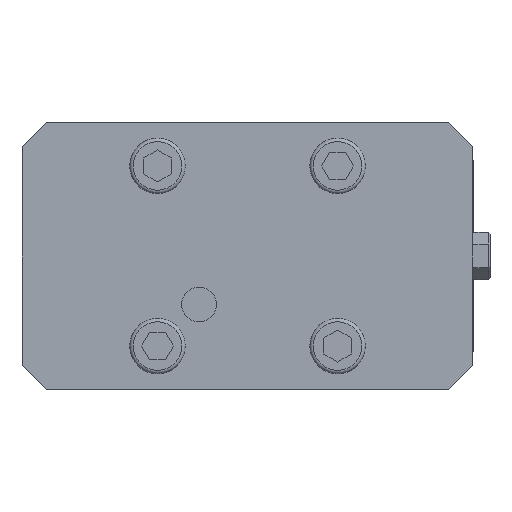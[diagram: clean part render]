
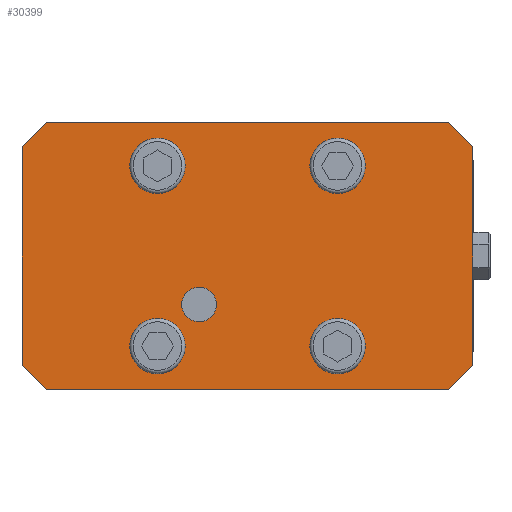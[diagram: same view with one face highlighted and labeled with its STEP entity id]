
A CAD part, front view. The second image highlights one B-rep face of the part: STEP entity #30399.
In plain terms, the highlighted planar face has unit normal (0, -1, 0).
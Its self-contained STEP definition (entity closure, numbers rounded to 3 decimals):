
#58 = CARTESIAN_POINT ( 'NONE',  ( -65., 0., -31.5 ) ) ;
#327 = EDGE_CURVE ( 'NONE', #10475, #29669, #24575, .T. ) ;
#652 = DIRECTION ( 'NONE',  ( 1., 0., 0. ) ) ;
#824 = LINE ( 'NONE', #6282, #32825 ) ;
#907 = FACE_BOUND ( 'NONE', #17403, .T. ) ;
#1289 = EDGE_CURVE ( 'NONE', #1801, #1801, #18396, .T. ) ;
#1741 = CIRCLE ( 'NONE', #29490, 6. ) ;
#1801 = VERTEX_POINT ( 'NONE', #23609 ) ;
#2771 = VECTOR ( 'NONE', #7462, 1000. ) ;
#2827 = CARTESIAN_POINT ( 'NONE',  ( -26., 0., 20. ) ) ;
#3425 = DIRECTION ( 'NONE',  ( -0.707, 0., -0.707 ) ) ;
#3615 = CIRCLE ( 'NONE', #16144, 6. ) ;
#3680 = CARTESIAN_POINT ( 'NONE',  ( 65., 0., -38.5 ) ) ;
#4965 = EDGE_LOOP ( 'NONE', ( #34882 ) ) ;
#5501 = CARTESIAN_POINT ( 'NONE',  ( -58., 0., -38.5 ) ) ;
#5804 = CARTESIAN_POINT ( 'NONE',  ( -26., 0., 26. ) ) ;
#6282 = CARTESIAN_POINT ( 'NONE',  ( 65., 0., 38.5 ) ) ;
#6343 = LINE ( 'NONE', #12186, #11443 ) ;
#6381 = CARTESIAN_POINT ( 'NONE',  ( 58., 0., 38.5 ) ) ;
#6531 = CIRCLE ( 'NONE', #10522, 6. ) ;
#7284 = VECTOR ( 'NONE', #32595, 1000. ) ;
#7462 = DIRECTION ( 'NONE',  ( 0., 0., -1. ) ) ;
#8031 = EDGE_CURVE ( 'NONE', #13704, #13704, #3615, .T. ) ;
#8256 = ORIENTED_EDGE ( 'NONE', *, *, #327, .T. ) ;
#8398 = EDGE_CURVE ( 'NONE', #29607, #29607, #8773, .T. ) ;
#8529 = CARTESIAN_POINT ( 'NONE',  ( -14., 0., -19. ) ) ;
#8773 = CIRCLE ( 'NONE', #14468, 5. ) ;
#9010 = DIRECTION ( 'NONE',  ( 0., 0., -1. ) ) ;
#9022 = DIRECTION ( 'NONE',  ( 0.707, 0., -0.707 ) ) ;
#9032 = EDGE_LOOP ( 'NONE', ( #29307, #8256, #24650, #22055, #13364, #22756, #33517, #28535 ) ) ;
#9410 = FACE_BOUND ( 'NONE', #27025, .T. ) ;
#9717 = LINE ( 'NONE', #34330, #21373 ) ;
#10188 = AXIS2_PLACEMENT_3D ( 'NONE', #3680, #19513, #16869 ) ;
#10475 = VERTEX_POINT ( 'NONE', #33263 ) ;
#10522 = AXIS2_PLACEMENT_3D ( 'NONE', #26397, #31710, #29036 ) ;
#11083 = CARTESIAN_POINT ( 'NONE',  ( -58., 0., 38.5 ) ) ;
#11443 = VECTOR ( 'NONE', #9022, 1000. ) ;
#11940 = CARTESIAN_POINT ( 'NONE',  ( 65., 0., 31.5 ) ) ;
#12186 = CARTESIAN_POINT ( 'NONE',  ( -58., 0., -38.5 ) ) ;
#12428 = CARTESIAN_POINT ( 'NONE',  ( 65., 0., -38.5 ) ) ;
#12561 = EDGE_CURVE ( 'NONE', #31163, #10475, #824, .T. ) ;
#12639 = CARTESIAN_POINT ( 'NONE',  ( -14., 0., -14. ) ) ;
#13074 = EDGE_CURVE ( 'NONE', #21581, #20390, #26256, .T. ) ;
#13364 = ORIENTED_EDGE ( 'NONE', *, *, #28792, .F. ) ;
#13704 = VERTEX_POINT ( 'NONE', #26783 ) ;
#14142 = EDGE_CURVE ( 'NONE', #27146, #27146, #1741, .T. ) ;
#14190 = EDGE_CURVE ( 'NONE', #21581, #31163, #19752, .T. ) ;
#14468 = AXIS2_PLACEMENT_3D ( 'NONE', #12639, #32120, #26619 ) ;
#14761 = EDGE_CURVE ( 'NONE', #27120, #15127, #6343, .T. ) ;
#15127 = VERTEX_POINT ( 'NONE', #5501 ) ;
#16144 = AXIS2_PLACEMENT_3D ( 'NONE', #27565, #19447, #652 ) ;
#16770 = DIRECTION ( 'NONE',  ( -0.707, 0., 0.707 ) ) ;
#16869 = DIRECTION ( 'NONE',  ( 0., 0., 1. ) ) ;
#17403 = EDGE_LOOP ( 'NONE', ( #18579 ) ) ;
#17416 = EDGE_CURVE ( 'NONE', #19864, #19864, #6531, .T. ) ;
#18186 = VECTOR ( 'NONE', #16770, 1000. ) ;
#18367 = EDGE_LOOP ( 'NONE', ( #21447 ) ) ;
#18396 = CIRCLE ( 'NONE', #26309, 6. ) ;
#18579 = ORIENTED_EDGE ( 'NONE', *, *, #14142, .F. ) ;
#19097 = CARTESIAN_POINT ( 'NONE',  ( -65., 0., 31.5 ) ) ;
#19447 = DIRECTION ( 'NONE',  ( 0., -1., 0. ) ) ;
#19513 = DIRECTION ( 'NONE',  ( 0., 1., 0. ) ) ;
#19752 = LINE ( 'NONE', #11940, #18186 ) ;
#19864 = VERTEX_POINT ( 'NONE', #27822 ) ;
#20212 = ORIENTED_EDGE ( 'NONE', *, *, #8031, .F. ) ;
#20390 = VERTEX_POINT ( 'NONE', #23558 ) ;
#20813 = DIRECTION ( 'NONE',  ( 0., 0., 1. ) ) ;
#21373 = VECTOR ( 'NONE', #28833, 1000. ) ;
#21447 = ORIENTED_EDGE ( 'NONE', *, *, #8398, .F. ) ;
#21581 = VERTEX_POINT ( 'NONE', #31905 ) ;
#21953 = LINE ( 'NONE', #24278, #7284 ) ;
#22055 = ORIENTED_EDGE ( 'NONE', *, *, #14761, .T. ) ;
#22110 = DIRECTION ( 'NONE',  ( 0., -1., 0. ) ) ;
#22496 = FACE_OUTER_BOUND ( 'NONE', #9032, .T. ) ;
#22664 = FACE_BOUND ( 'NONE', #18367, .T. ) ;
#22756 = ORIENTED_EDGE ( 'NONE', *, *, #25656, .T. ) ;
#22850 = FACE_BOUND ( 'NONE', #4965, .T. ) ;
#23558 = CARTESIAN_POINT ( 'NONE',  ( 65., 0., -31.5 ) ) ;
#23609 = CARTESIAN_POINT ( 'NONE',  ( 26., 0., -20. ) ) ;
#23858 = ORIENTED_EDGE ( 'NONE', *, *, #1289, .F. ) ;
#24278 = CARTESIAN_POINT ( 'NONE',  ( 65., 0., -38.5 ) ) ;
#24575 = LINE ( 'NONE', #11083, #32286 ) ;
#24650 = ORIENTED_EDGE ( 'NONE', *, *, #28190, .T. ) ;
#24839 = VERTEX_POINT ( 'NONE', #27836 ) ;
#25656 = EDGE_CURVE ( 'NONE', #24839, #20390, #31059, .T. ) ;
#26256 = LINE ( 'NONE', #12428, #2771 ) ;
#26309 = AXIS2_PLACEMENT_3D ( 'NONE', #31963, #26478, #20813 ) ;
#26397 = CARTESIAN_POINT ( 'NONE',  ( 26., 0., 26. ) ) ;
#26478 = DIRECTION ( 'NONE',  ( 0., -1., 0. ) ) ;
#26619 = DIRECTION ( 'NONE',  ( 0., 0., -1. ) ) ;
#26783 = CARTESIAN_POINT ( 'NONE',  ( -20., 0., -26. ) ) ;
#27025 = EDGE_LOOP ( 'NONE', ( #20212 ) ) ;
#27120 = VERTEX_POINT ( 'NONE', #58 ) ;
#27146 = VERTEX_POINT ( 'NONE', #2827 ) ;
#27565 = CARTESIAN_POINT ( 'NONE',  ( -26., 0., -26. ) ) ;
#27822 = CARTESIAN_POINT ( 'NONE',  ( 20., 0., 26. ) ) ;
#27836 = CARTESIAN_POINT ( 'NONE',  ( 58., 0., -38.5 ) ) ;
#27982 = PLANE ( 'NONE',  #10188 ) ;
#28190 = EDGE_CURVE ( 'NONE', #29669, #27120, #9717, .T. ) ;
#28535 = ORIENTED_EDGE ( 'NONE', *, *, #14190, .T. ) ;
#28792 = EDGE_CURVE ( 'NONE', #24839, #15127, #21953, .T. ) ;
#28833 = DIRECTION ( 'NONE',  ( 0., 0., -1. ) ) ;
#28926 = CARTESIAN_POINT ( 'NONE',  ( 65., 0., -31.5 ) ) ;
#29036 = DIRECTION ( 'NONE',  ( -1., 0., 0. ) ) ;
#29307 = ORIENTED_EDGE ( 'NONE', *, *, #12561, .T. ) ;
#29490 = AXIS2_PLACEMENT_3D ( 'NONE', #5804, #22110, #9010 ) ;
#29607 = VERTEX_POINT ( 'NONE', #8529 ) ;
#29669 = VERTEX_POINT ( 'NONE', #19097 ) ;
#30334 = VECTOR ( 'NONE', #34076, 1000. ) ;
#30399 = ADVANCED_FACE ( 'NONE', ( #22664, #22850, #33121, #9410, #907, #22496 ), #27982, .F. ) ;
#31059 = LINE ( 'NONE', #28926, #30334 ) ;
#31163 = VERTEX_POINT ( 'NONE', #6381 ) ;
#31710 = DIRECTION ( 'NONE',  ( 0., -1., 0. ) ) ;
#31773 = EDGE_LOOP ( 'NONE', ( #23858 ) ) ;
#31905 = CARTESIAN_POINT ( 'NONE',  ( 65., 0., 31.5 ) ) ;
#31963 = CARTESIAN_POINT ( 'NONE',  ( 26., 0., -26. ) ) ;
#32120 = DIRECTION ( 'NONE',  ( 0., -1., 0. ) ) ;
#32286 = VECTOR ( 'NONE', #3425, 1000. ) ;
#32595 = DIRECTION ( 'NONE',  ( -1., 0., 0. ) ) ;
#32825 = VECTOR ( 'NONE', #33051, 1000. ) ;
#33051 = DIRECTION ( 'NONE',  ( -1., 0., 0. ) ) ;
#33121 = FACE_BOUND ( 'NONE', #31773, .T. ) ;
#33263 = CARTESIAN_POINT ( 'NONE',  ( -58., 0., 38.5 ) ) ;
#33517 = ORIENTED_EDGE ( 'NONE', *, *, #13074, .F. ) ;
#34076 = DIRECTION ( 'NONE',  ( 0.707, 0., 0.707 ) ) ;
#34330 = CARTESIAN_POINT ( 'NONE',  ( -65., 0., -38.5 ) ) ;
#34882 = ORIENTED_EDGE ( 'NONE', *, *, #17416, .F. ) ;
